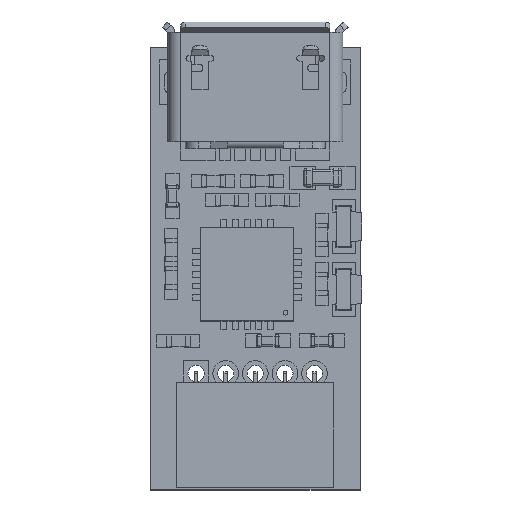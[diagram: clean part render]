
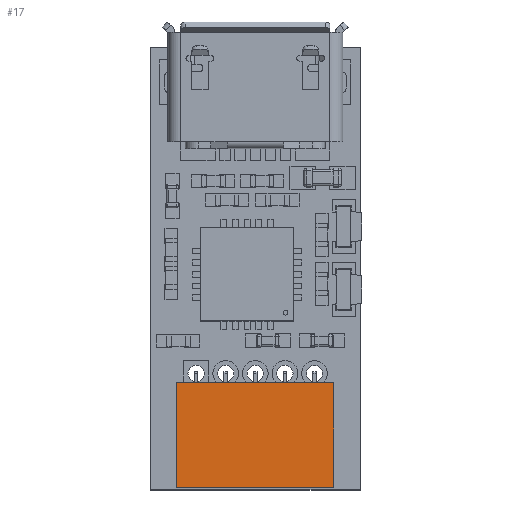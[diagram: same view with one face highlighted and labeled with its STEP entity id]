
A CAD part, top view. The second image highlights one B-rep face of the part: STEP entity #17.
In plain terms, the highlighted planar face has unit normal (0, 0, 1).
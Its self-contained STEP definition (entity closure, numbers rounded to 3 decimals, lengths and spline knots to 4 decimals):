
#17 = ADVANCED_FACE('',(#18),#32,.T.);
#18 = FACE_BOUND('',#19,.T.);
#19 = EDGE_LOOP('',(#20,#55,#83,#111));
#20 = ORIENTED_EDGE('',*,*,#21,.T.);
#21 = EDGE_CURVE('',#22,#24,#26,.T.);
#22 = VERTEX_POINT('',#23);
#23 = CARTESIAN_POINT('',(16.625,15.6025,2.8));
#24 = VERTEX_POINT('',#25);
#25 = CARTESIAN_POINT('',(16.625,11.1025,2.8));
#26 = SURFACE_CURVE('',#27,(#31,#43),.PCURVE_S1.);
#27 = LINE('',#28,#29);
#28 = CARTESIAN_POINT('',(16.625,15.6025,2.8));
#29 = VECTOR('',#30,1.);
#30 = DIRECTION('',(0.,-1.,0.));
#31 = PCURVE('',#32,#37);
#32 = PLANE('',#33);
#33 = AXIS2_PLACEMENT_3D('',#34,#35,#36);
#34 = CARTESIAN_POINT('',(16.625,15.6025,2.8));
#35 = DIRECTION('',(0.,0.,1.));
#36 = DIRECTION('',(1.,0.,0.));
#37 = DEFINITIONAL_REPRESENTATION('',(#38),#42);
#38 = LINE('',#39,#40);
#39 = CARTESIAN_POINT('',(0.,0.));
#40 = VECTOR('',#41,1.);
#41 = DIRECTION('',(0.,-1.));
#42 = ( GEOMETRIC_REPRESENTATION_CONTEXT(2) 
PARAMETRIC_REPRESENTATION_CONTEXT() REPRESENTATION_CONTEXT('2D SPACE',''
  ) );
#43 = PCURVE('',#44,#49);
#44 = PLANE('',#45);
#45 = AXIS2_PLACEMENT_3D('',#46,#47,#48);
#46 = CARTESIAN_POINT('',(16.625,15.6025,0.6));
#47 = DIRECTION('',(-1.,0.,0.));
#48 = DIRECTION('',(0.,0.,1.));
#49 = DEFINITIONAL_REPRESENTATION('',(#50),#54);
#50 = LINE('',#51,#52);
#51 = CARTESIAN_POINT('',(2.2,0.));
#52 = VECTOR('',#53,1.);
#53 = DIRECTION('',(0.,-1.));
#54 = ( GEOMETRIC_REPRESENTATION_CONTEXT(2) 
PARAMETRIC_REPRESENTATION_CONTEXT() REPRESENTATION_CONTEXT('2D SPACE',''
  ) );
#55 = ORIENTED_EDGE('',*,*,#56,.T.);
#56 = EDGE_CURVE('',#24,#57,#59,.T.);
#57 = VERTEX_POINT('',#58);
#58 = CARTESIAN_POINT('',(23.375,11.1025,2.8));
#59 = SURFACE_CURVE('',#60,(#64,#71),.PCURVE_S1.);
#60 = LINE('',#61,#62);
#61 = CARTESIAN_POINT('',(16.625,11.1025,2.8));
#62 = VECTOR('',#63,1.);
#63 = DIRECTION('',(1.,0.,0.));
#64 = PCURVE('',#32,#65);
#65 = DEFINITIONAL_REPRESENTATION('',(#66),#70);
#66 = LINE('',#67,#68);
#67 = CARTESIAN_POINT('',(0.,-4.5));
#68 = VECTOR('',#69,1.);
#69 = DIRECTION('',(1.,0.));
#70 = ( GEOMETRIC_REPRESENTATION_CONTEXT(2) 
PARAMETRIC_REPRESENTATION_CONTEXT() REPRESENTATION_CONTEXT('2D SPACE',''
  ) );
#71 = PCURVE('',#72,#77);
#72 = PLANE('',#73);
#73 = AXIS2_PLACEMENT_3D('',#74,#75,#76);
#74 = CARTESIAN_POINT('',(20.,11.1025,1.7));
#75 = DIRECTION('',(0.,1.,0.));
#76 = DIRECTION('',(0.,0.,1.));
#77 = DEFINITIONAL_REPRESENTATION('',(#78),#82);
#78 = LINE('',#79,#80);
#79 = CARTESIAN_POINT('',(1.1,-3.375));
#80 = VECTOR('',#81,1.);
#81 = DIRECTION('',(0.,1.));
#82 = ( GEOMETRIC_REPRESENTATION_CONTEXT(2) 
PARAMETRIC_REPRESENTATION_CONTEXT() REPRESENTATION_CONTEXT('2D SPACE',''
  ) );
#83 = ORIENTED_EDGE('',*,*,#84,.F.);
#84 = EDGE_CURVE('',#85,#57,#87,.T.);
#85 = VERTEX_POINT('',#86);
#86 = CARTESIAN_POINT('',(23.375,15.6025,2.8));
#87 = SURFACE_CURVE('',#88,(#92,#99),.PCURVE_S1.);
#88 = LINE('',#89,#90);
#89 = CARTESIAN_POINT('',(23.375,15.6025,2.8));
#90 = VECTOR('',#91,1.);
#91 = DIRECTION('',(0.,-1.,0.));
#92 = PCURVE('',#32,#93);
#93 = DEFINITIONAL_REPRESENTATION('',(#94),#98);
#94 = LINE('',#95,#96);
#95 = CARTESIAN_POINT('',(6.75,0.));
#96 = VECTOR('',#97,1.);
#97 = DIRECTION('',(0.,-1.));
#98 = ( GEOMETRIC_REPRESENTATION_CONTEXT(2) 
PARAMETRIC_REPRESENTATION_CONTEXT() REPRESENTATION_CONTEXT('2D SPACE',''
  ) );
#99 = PCURVE('',#100,#105);
#100 = PLANE('',#101);
#101 = AXIS2_PLACEMENT_3D('',#102,#103,#104);
#102 = CARTESIAN_POINT('',(23.375,15.6025,2.8));
#103 = DIRECTION('',(1.,0.,0.));
#104 = DIRECTION('',(0.,0.,-1.));
#105 = DEFINITIONAL_REPRESENTATION('',(#106),#110);
#106 = LINE('',#107,#108);
#107 = CARTESIAN_POINT('',(0.,0.));
#108 = VECTOR('',#109,1.);
#109 = DIRECTION('',(0.,-1.));
#110 = ( GEOMETRIC_REPRESENTATION_CONTEXT(2) 
PARAMETRIC_REPRESENTATION_CONTEXT() REPRESENTATION_CONTEXT('2D SPACE',''
  ) );
#111 = ORIENTED_EDGE('',*,*,#112,.F.);
#112 = EDGE_CURVE('',#22,#85,#113,.T.);
#113 = SURFACE_CURVE('',#114,(#118,#125),.PCURVE_S1.);
#114 = LINE('',#115,#116);
#115 = CARTESIAN_POINT('',(16.625,15.6025,2.8));
#116 = VECTOR('',#117,1.);
#117 = DIRECTION('',(1.,0.,0.));
#118 = PCURVE('',#32,#119);
#119 = DEFINITIONAL_REPRESENTATION('',(#120),#124);
#120 = LINE('',#121,#122);
#121 = CARTESIAN_POINT('',(0.,0.));
#122 = VECTOR('',#123,1.);
#123 = DIRECTION('',(1.,0.));
#124 = ( GEOMETRIC_REPRESENTATION_CONTEXT(2) 
PARAMETRIC_REPRESENTATION_CONTEXT() REPRESENTATION_CONTEXT('2D SPACE',''
  ) );
#125 = PCURVE('',#126,#131);
#126 = PLANE('',#127);
#127 = AXIS2_PLACEMENT_3D('',#128,#129,#130);
#128 = CARTESIAN_POINT('',(20.,15.6025,1.7));
#129 = DIRECTION('',(0.,1.,0.));
#130 = DIRECTION('',(0.,0.,1.));
#131 = DEFINITIONAL_REPRESENTATION('',(#132),#136);
#132 = LINE('',#133,#134);
#133 = CARTESIAN_POINT('',(1.1,-3.375));
#134 = VECTOR('',#135,1.);
#135 = DIRECTION('',(0.,1.));
#136 = ( GEOMETRIC_REPRESENTATION_CONTEXT(2) 
PARAMETRIC_REPRESENTATION_CONTEXT() REPRESENTATION_CONTEXT('2D SPACE',''
  ) );
